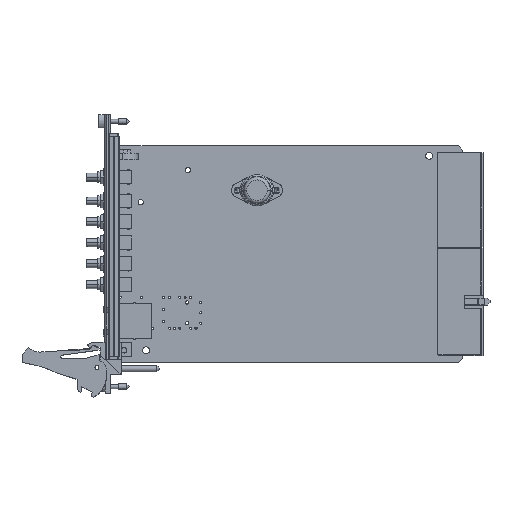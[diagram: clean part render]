
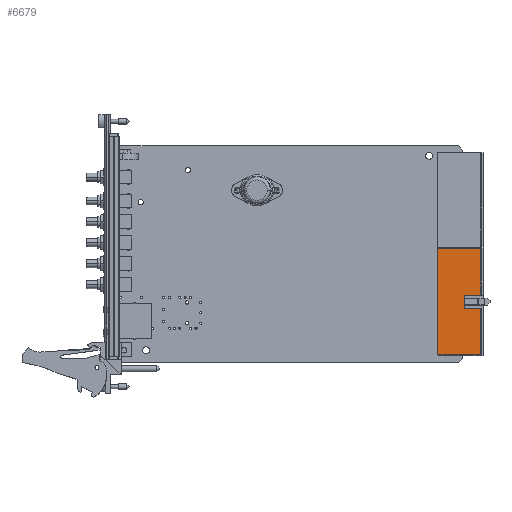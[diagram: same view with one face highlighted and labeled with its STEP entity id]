
A CAD part, top view. The second image highlights one B-rep face of the part: STEP entity #6679.
In plain terms, the highlighted planar face has unit normal (0, 0, 1).
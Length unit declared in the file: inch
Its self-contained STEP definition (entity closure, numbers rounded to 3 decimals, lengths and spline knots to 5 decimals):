
#5040=DIRECTION('',(-1.,0.,0.));
#5041=VECTOR('',#5040,0.30315);
#5042=CARTESIAN_POINT('',(6.62289,-2.71512,
0.35728));
#5043=LINE('',#5042,#5041);
#5044=DIRECTION('',(0.,-1.,0.));
#5045=VECTOR('',#5044,0.06);
#5046=CARTESIAN_POINT('',(6.31974,-2.71512,
0.35728));
#5047=LINE('',#5046,#5045);
#5048=DIRECTION('',(0.,-1.,0.));
#5049=VECTOR('',#5048,0.06);
#5050=CARTESIAN_POINT('',(6.31974,-2.89512,
0.35728));
#5051=LINE('',#5050,#5049);
#5052=DIRECTION('',(-1.,0.,0.));
#5053=VECTOR('',#5052,0.30315);
#5054=CARTESIAN_POINT('',(6.62289,-2.95512,
0.35728));
#5055=LINE('',#5054,#5053);
#5056=DIRECTION('',(0.,-1.,0.));
#5057=VECTOR('',#5056,0.84457);
#5058=CARTESIAN_POINT('',(6.62289,-2.95512,
0.35728));
#5059=LINE('',#5058,#5057);
#5060=DIRECTION('',(-1.,0.,0.));
#5061=VECTOR('',#5060,0.77756);
#5062=CARTESIAN_POINT('',(6.62289,-3.79969,
0.35728));
#5063=LINE('',#5062,#5061);
#5064=DIRECTION('',(0.,1.,0.));
#5065=VECTOR('',#5064,1.92913);
#5066=CARTESIAN_POINT('',(5.84533,-3.79969,
0.35728));
#5067=LINE('',#5066,#5065);
#5068=DIRECTION('',(1.,0.,0.));
#5069=VECTOR('',#5068,0.77756);
#5070=CARTESIAN_POINT('',(5.84533,-1.87055,
0.35728));
#5071=LINE('',#5070,#5069);
#5072=DIRECTION('',(0.,-1.,0.));
#5073=VECTOR('',#5072,0.84457);
#5074=CARTESIAN_POINT('',(6.62289,-1.87055,
0.35728));
#5075=LINE('',#5074,#5073);
#5244=DIRECTION('',(0.,1.,0.));
#5245=VECTOR('',#5244,0.12);
#5246=CARTESIAN_POINT('',(6.31974,-2.89512,
0.35728));
#5247=LINE('',#5246,#5245);
#5532=CARTESIAN_POINT('',(5.84533,-3.79969,
0.35728));
#5534=VERTEX_POINT('',#5532);
#5535=CARTESIAN_POINT('',(6.62289,-3.79969,
0.35728));
#5536=VERTEX_POINT('',#5535);
#5538=CARTESIAN_POINT('',(5.84533,-1.87055,
0.35728));
#5540=VERTEX_POINT('',#5538);
#5541=CARTESIAN_POINT('',(6.62289,-1.87055,
0.35728));
#5542=VERTEX_POINT('',#5541);
#5555=CARTESIAN_POINT('',(6.62289,-2.71512,
0.35728));
#5556=CARTESIAN_POINT('',(6.31974,-2.71512,
0.35728));
#5557=VERTEX_POINT('',#5555);
#5558=VERTEX_POINT('',#5556);
#5559=CARTESIAN_POINT('',(6.31974,-2.77512,
0.35728));
#5560=VERTEX_POINT('',#5559);
#5561=CARTESIAN_POINT('',(6.62289,-2.95512,
0.35728));
#5562=CARTESIAN_POINT('',(6.31974,-2.95512,
0.35728));
#5563=VERTEX_POINT('',#5561);
#5564=VERTEX_POINT('',#5562);
#5565=CARTESIAN_POINT('',(6.31974,-2.89512,
0.35728));
#5566=VERTEX_POINT('',#5565);
#6653=CARTESIAN_POINT('',(5.84533,-3.79969,
0.35728));
#6654=DIRECTION('',(0.,0.,1.));
#6655=DIRECTION('',(1.,0.,0.));
#6656=AXIS2_PLACEMENT_3D('',#6653,#6654,#6655);
#6657=PLANE('',#6656);
#6659=ORIENTED_EDGE('',*,*,#6658,.T.);
#6661=ORIENTED_EDGE('',*,*,#6660,.T.);
#6663=ORIENTED_EDGE('',*,*,#6662,.F.);
#6665=ORIENTED_EDGE('',*,*,#6664,.T.);
#6667=ORIENTED_EDGE('',*,*,#6666,.F.);
#6669=ORIENTED_EDGE('',*,*,#6668,.T.);
#6671=ORIENTED_EDGE('',*,*,#6670,.T.);
#6672=ORIENTED_EDGE('',*,*,#6642,.T.);
#6674=ORIENTED_EDGE('',*,*,#6673,.T.);
#6676=ORIENTED_EDGE('',*,*,#6675,.T.);
#6677=EDGE_LOOP('',(#6659,#6661,#6663,#6665,#6667,#6669,#6671,#6672,#6674,
#6676));
#6678=FACE_OUTER_BOUND('',#6677,.F.);
#6679=ADVANCED_FACE('',(#6678),#6657,.T.);
#6642=EDGE_CURVE('',#5534,#5540,#5067,.T.);
#6658=EDGE_CURVE('',#5557,#5558,#5043,.T.);
#6660=EDGE_CURVE('',#5558,#5560,#5047,.T.);
#6662=EDGE_CURVE('',#5566,#5560,#5247,.T.);
#6664=EDGE_CURVE('',#5566,#5564,#5051,.T.);
#6666=EDGE_CURVE('',#5563,#5564,#5055,.T.);
#6668=EDGE_CURVE('',#5563,#5536,#5059,.T.);
#6670=EDGE_CURVE('',#5536,#5534,#5063,.T.);
#6673=EDGE_CURVE('',#5540,#5542,#5071,.T.);
#6675=EDGE_CURVE('',#5542,#5557,#5075,.T.);
